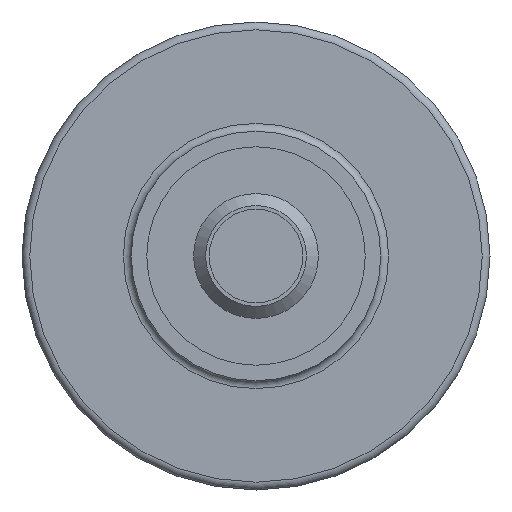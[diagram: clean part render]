
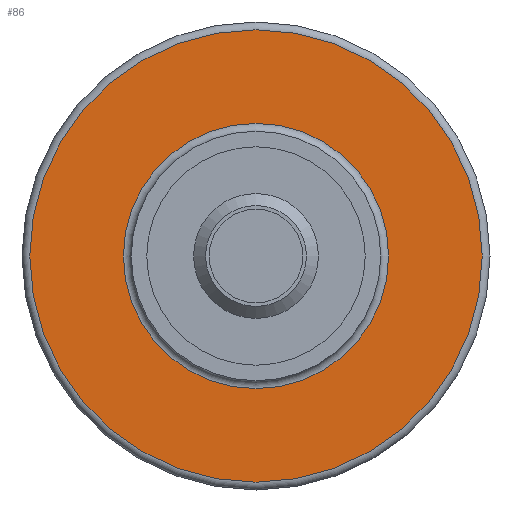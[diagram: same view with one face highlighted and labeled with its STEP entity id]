
A CAD part, front view. The second image highlights one B-rep face of the part: STEP entity #86.
In plain terms, the highlighted planar face has unit normal (0, -1, 0).
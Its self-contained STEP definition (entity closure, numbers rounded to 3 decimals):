
#86 = ADVANCED_FACE( '', ( #126, #127 ), #128, .F. );
#126 = FACE_BOUND( '', #181, .T. );
#127 = FACE_OUTER_BOUND( '', #182, .T. );
#128 = PLANE( '', #183 );
#181 = EDGE_LOOP( '', ( #258 ) );
#182 = EDGE_LOOP( '', ( #259 ) );
#183 = AXIS2_PLACEMENT_3D( '', #260, #261, #262 );
#258 = ORIENTED_EDGE( '', *, *, #309, .F. );
#259 = ORIENTED_EDGE( '', *, *, #308, .T. );
#260 = CARTESIAN_POINT( '', ( 14.5, 8.5, 0. ) );
#261 = DIRECTION( '', ( 0., 1., 0. ) );
#262 = DIRECTION( '', ( 0., 0., 1. ) );
#308 = EDGE_CURVE( '', #336, #336, #337, .T. );
#309 = EDGE_CURVE( '', #338, #338, #339, .T. );
#336 = VERTEX_POINT( '', #372 );
#337 = CIRCLE( '', #373, 14.5 );
#338 = VERTEX_POINT( '', #374 );
#339 = CIRCLE( '', #375, 8.5 );
#372 = CARTESIAN_POINT( '', ( 0., 8.5, -14.5 ) );
#373 = AXIS2_PLACEMENT_3D( '', #418, #419, #420 );
#374 = CARTESIAN_POINT( '', ( 0., 8.5, -8.5 ) );
#375 = AXIS2_PLACEMENT_3D( '', #421, #422, #423 );
#418 = CARTESIAN_POINT( '', ( 0., 8.5, 0. ) );
#419 = DIRECTION( '', ( 0., -1., 0. ) );
#420 = DIRECTION( '', ( 0., 0., -1. ) );
#421 = CARTESIAN_POINT( '', ( 0., 8.5, 0. ) );
#422 = DIRECTION( '', ( 0., -1., 0. ) );
#423 = DIRECTION( '', ( 0., 0., -1. ) );
